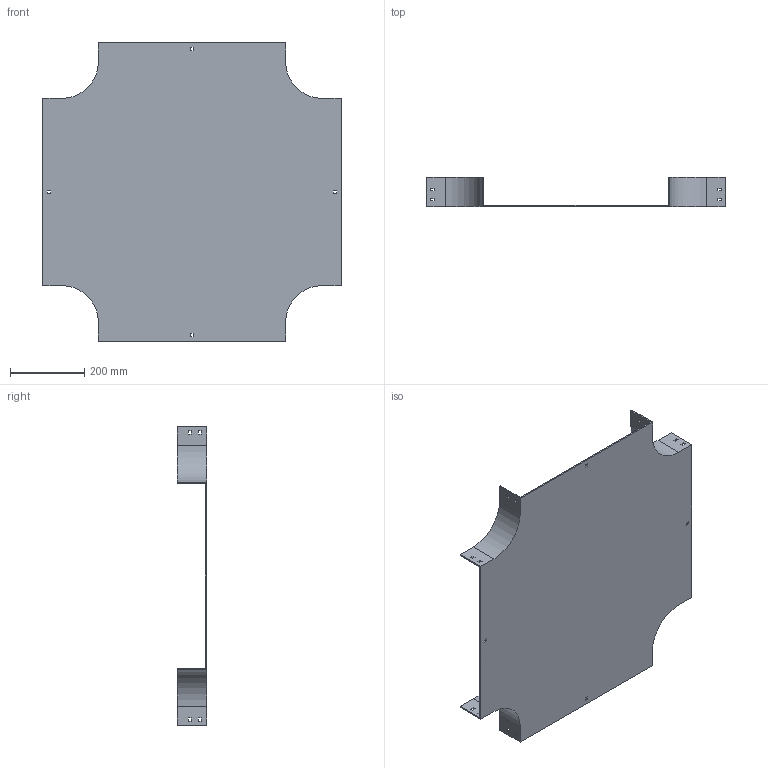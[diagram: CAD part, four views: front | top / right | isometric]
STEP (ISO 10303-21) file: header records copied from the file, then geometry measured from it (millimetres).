
FILE_DESCRIPTION (( 'STEP AP214' ), '1' );
FILE_NAME ('17B1C500.step', '2025-02-21T09:58:26', ( '' ), ( '' ), 'SwSTEP 2.0', 'SolidWorks 2023', '' );
FILE_SCHEMA (( 'AUTOMOTIVE_DESIGN' ));
Length unit declared in the file: millimetre
Products named in the file (1): 17B1C500
Bounding box: 804 x 79 x 804 mm (x, y, z)
Volume: 2247400 mm3; surface area: 1299335.7 mm2
Topology: 1 solids, 1 shells, 114 faces, 336 edges, 224 vertices
Faces by surface type: plane 106, cylinder 8
Entity records: 3839 total; most frequent: CARTESIAN_POINT 675, ORIENTED_EDGE 672, DIRECTION 582, EDGE_CURVE 336, LINE 320, VECTOR 320, VERTEX_POINT 224, EDGE_LOOP 154
